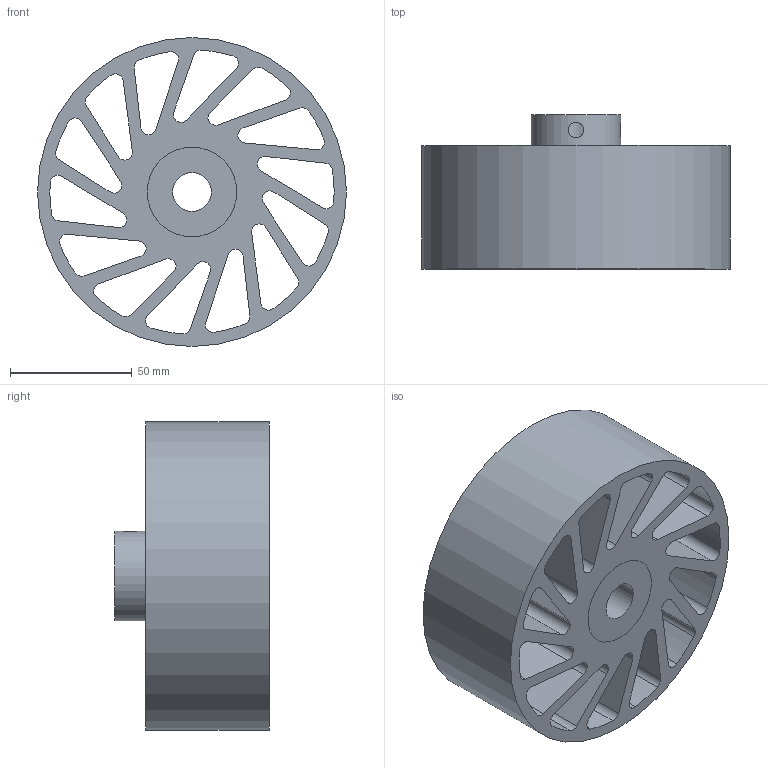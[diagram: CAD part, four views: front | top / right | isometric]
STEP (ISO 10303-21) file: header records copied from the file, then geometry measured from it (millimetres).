
FILE_DESCRIPTION(/* description */ (''),/* implementation_level */ '2;1');
FILE_NAME(/* name */ 'NCW-510-XXX-YYY.stp',/* time_stamp */ '2023-02-02T15:23:34-06:00',/* author */ ('AG'),/* organization */ ('Meridian Laboratory'),/* preprocessor_version */ 'ST-DEVELOPER v18.1',/* originating_system */ 'Autodesk Inventor 2022',/* authorisation */ '');
FILE_SCHEMA (('AUTOMOTIVE_DESIGN { 1 0 10303 214 3 1 1 }'));
Length unit declared in the file: inch
Products named in the file (1): NCW-440
Bounding box: 127 x 63.5 x 127 mm (x, y, z)
Volume: 361086.7 mm3; surface area: 112273.7 mm2
Topology: 2 solids, 2 shells, 94 faces, 276 edges, 186 vertices
Faces by surface type: cylinder 62, plane 32
Full cylindrical faces by diameter (mm): 6.35 x2, 15.9 x1, 36.83 x2, 127 x1
Entity records: 3530 total; most frequent: CARTESIAN_POINT 697, DIRECTION 576, ORIENTED_EDGE 552, EDGE_CURVE 276, AXIS2_PLACEMENT_3D 215, VERTEX_POINT 186, LINE 146, VECTOR 146
